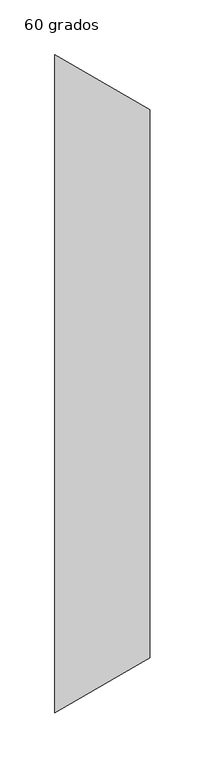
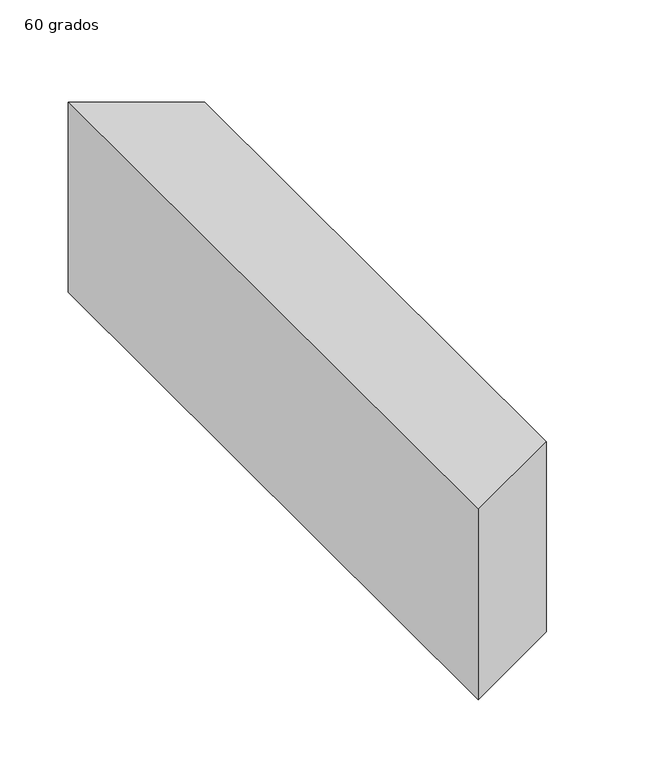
"""IFC4 building model written with IfcOpenShell, lengths in millimetres: duct fitting geometry, M_Transición rectangular - Ángulo : 60 grados."""

from ifc_helpers import new_model, si_unit, frame, origin, place, context, project, spatial, polyline, outline, extrude, source, transform, mapped, element, save


def duct_fitting_60_grados_cd6bcafe(model_context):
    return source(origin(), model_context, "Body", "SweptSolid", [
        extrude(outline(polyline([(0.0, -300.0), (0.0, 300.0), (86.6025404, 250.0), (86.6025404, -250.0), (0.0, -300.0)])), frame((0.0, 0.0, -85.0), z_axis=(0.0, 0.0, 1.0), x_axis=(1.0, 0.0, 0.0)), (0.0, 0.0, 1.0), 170.0),
    ])


if __name__ == "__main__":
    model = new_model("IFC4")
    model_context = context("Model", 3, world=origin())
    ifc_project = project(units=[si_unit("LENGTHUNIT", "METRE", prefix="MILLI")], contexts=[model_context])
    site = spatial("IfcSite", under=ifc_project)
    building = spatial("IfcBuilding", under=site)
    placement = place(None, origin())
    duct_fitting_60_grados_shape = duct_fitting_60_grados_cd6bcafe(model_context)
    element("IfcDuctFitting", 1, ObjectType="M_Transición rectangular - Ángulo : 60 grados", at=placement, inside=building, context=model_context, shape_type="MappedRepresentation", body=[
        mapped(duct_fitting_60_grados_shape, transform((0.0, 0.0, 0.0), x_axis=(1.0, 0.0, 0.0), y_axis=(0.0, 1.0, 0.0), z_axis=(0.0, 0.0, 1.0))),
    ])
    save(model, "model.ifc")
